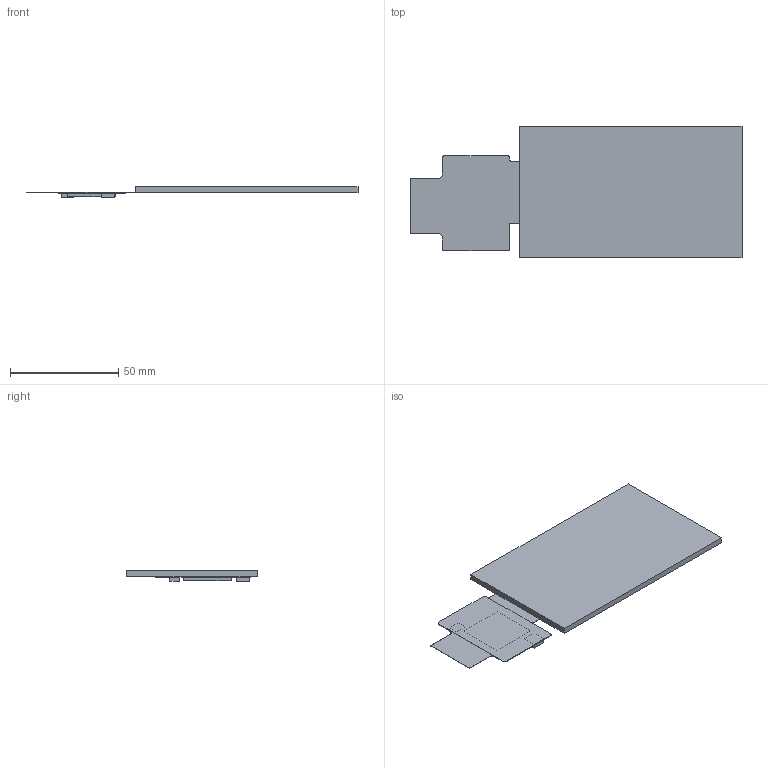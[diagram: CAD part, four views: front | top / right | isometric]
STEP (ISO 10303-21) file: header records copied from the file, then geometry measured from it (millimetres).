
FILE_DESCRIPTION((''),'2;1');
FILE_NAME('DMG80480F043-01WN','2022-01-21T',('Administrator'),(''),'PRO/ENGINEER BY PARAMETRIC TECHNOLOGY CORPORATION, 2011310','PRO/ENGINEER BY PARAMETRIC TECHNOLOGY CORPORATION, 2011310','');
FILE_SCHEMA(('CONFIG_CONTROL_DESIGN','SHAPE_APPEARANCE_LAYERS_GROUPS'));
Length unit declared in the file: millimetre
Products named in the file (1): DMG80480F043-01WN
Bounding box: 153.27 x 60.86 x 5 mm (x, y, z)
Volume: 18056 mm3; surface area: 17484.1 mm2
Topology: 1 solids, 1 shells, 48 faces, 126 edges, 84 vertices
Faces by surface type: plane 38, cylinder 10
Entity records: 1548 total; most frequent: CARTESIAN_POINT 258, ORIENTED_EDGE 252, DIRECTION 242, EDGE_CURVE 126, VECTOR 106, LINE 106, VERTEX_POINT 84, AXIS2_PLACEMENT_3D 68
